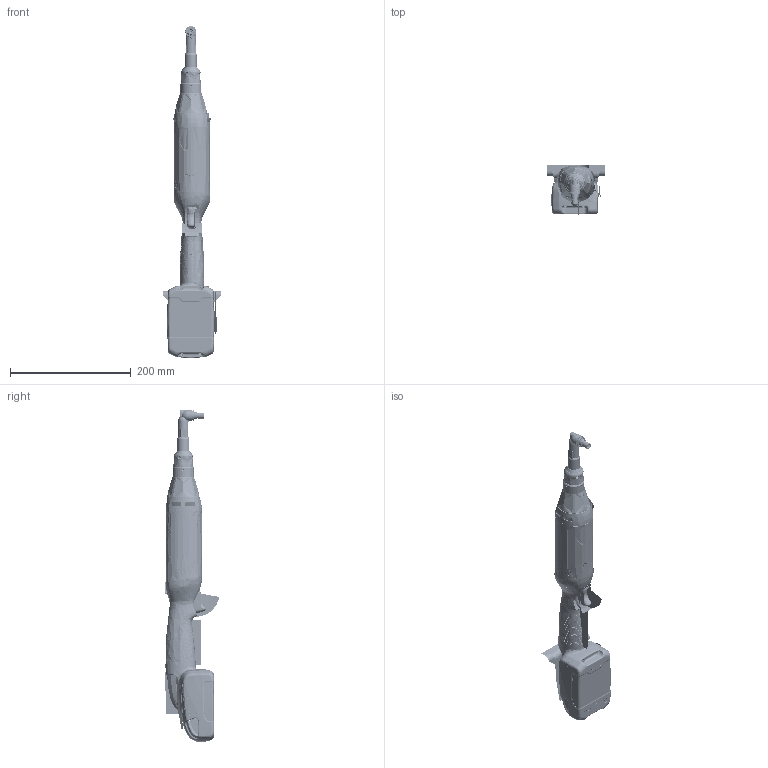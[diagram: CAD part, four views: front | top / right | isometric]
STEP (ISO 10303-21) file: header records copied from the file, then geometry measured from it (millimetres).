
FILE_DESCRIPTION((''),'2;1');
FILE_NAME('47519395001_ASM','2014-06-02T',('rryoung'),(''),'PRO/ENGINEER BY PARAMETRIC TECHNOLOGY CORPORATION, 2012450','PRO/ENGINEER BY PARAMETRIC TECHNOLOGY CORPORATION, 2012450','');
FILE_SCHEMA(('CONFIG_CONTROL_DESIGN'));
Products named in the file (76): 48617062M56; 48617062M55; 48617062M54; 48617062M52; 48617062M53; 48617062M34; 48617062M35; 48617062M36; 48617062M37; 48617062M38; 48617062M39; 48617062M40; 48617062M41; 48617062M42; 48617062M43; 48617062M44; 48617062M45; 48617062M46; 48617062M47; 48617062M48; 48617062M49; 48617062M50; 48617062M51; 48617062M1; 48617062M2; 48617062M3; 48617062M4; 48617062M5; 48617062M6; 48617062M7; 48617062M8; 48617062M9; 48617062M10; 48617062M11; 48617062M12; 48617062M13; 48617062M14; 48617062M15; 48617062M16; 48617062M17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
Assembly tree (86 placements, depth 3):
  47519395001_ASM
    48617062_ASM
      48617062M56
      48617062M55
      48617062M54
      48617062M52
      48617062M53
      48617062M34
      48617062M35
      48617062M36
      48617062M37
      48617062M38
      48617062M39
      48617062M40
      48617062M41
      48617062M42
      48617062M43
      48617062M44
      48617062M45
      48617062M46
      48617062M47
      48617062M48
      48617062M49
      48617062M50
      48617062M51
      48617062M1
      48617062M2
      48617062M3
      48617062M4
      48617062M5
      48617062M6
      48617062M7
      48617062M8
      48617062M9
      48617062M10
      48617062M11
      48617062M12  x2
      48617062M13  x2
      48617062M14  x2
      48617062M15  x2
      48617062M16  x2
      48617062M17  x2
      48617062M18  x2
      48617062M19  x2
      48617062M20  x2
      48617062M21  x2
      48617062M22  x2
      48617062M23
      48617062M24
      48617062M25
      48617062M26
      48617062M27
      48617062M28
      48617062M29
      48617062M30
      48617062M31
      48617062M32
      48617062M33
    24224537
    47507311001_ASM
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Bounding box: 96 x 90.39 x 550.35 mm (x, y, z)
Volume: 376877.4 mm3; surface area: 951574.2 mm2
Topology: 82 solids, 373 shells, 15895 faces, 41073 edges, 25462 vertices
Faces by surface type: bspline 4809, plane 4803, cylinder 3436, torus 1277, cone 837, extrusion 361, sphere 356, revolution 16
Entity records: 809013 total; most frequent: CARTESIAN_POINT 470681, ORIENTED_EDGE 78890, DIRECTION 54897, EDGE_CURVE 40483, VERTEX_POINT 25390, AXIS2_PLACEMENT_3D 20195, B_SPLINE_CURVE_WITH_KNOTS 17421, EDGE_LOOP 16354
